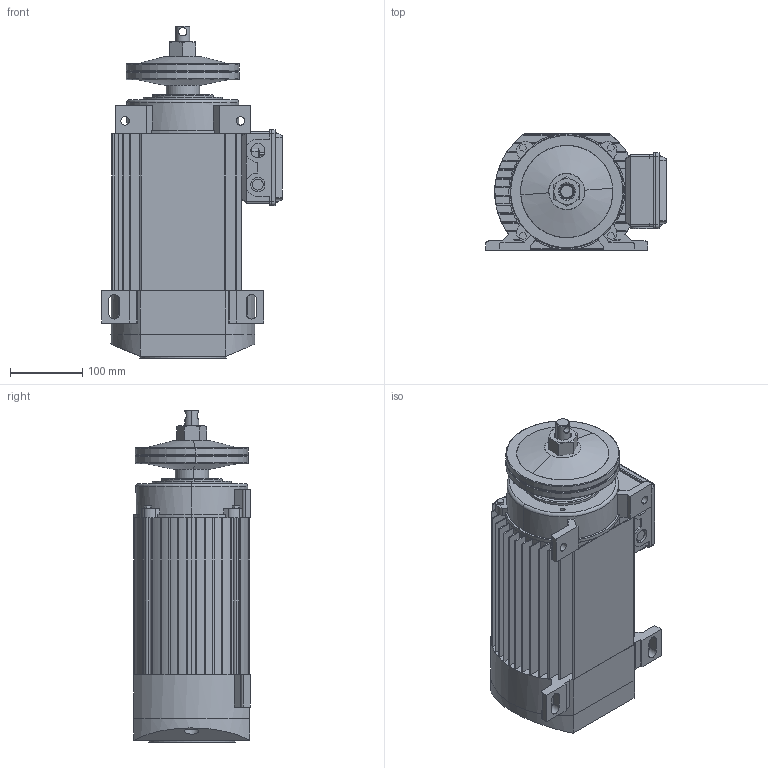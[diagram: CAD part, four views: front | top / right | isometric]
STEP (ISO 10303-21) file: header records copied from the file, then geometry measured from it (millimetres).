
FILE_DESCRIPTION (( 'STEP AP214' ), '1' );
FILE_NAME ('KSD_81A2.STEP', '2012-10-30T09:02:03', ( ' ' ), ( '' ), 'SwSTEP 2.0', 'SolidWorks 2012', '' );
FILE_SCHEMA (( 'AUTOMOTIVE_DESIGN' ));
Length unit declared in the file: millimetre
Products named in the file (10): Klemmenbrett_MS100; Zuganker_M6; Hex Nut GradeC_DIN_Hexagon Nut ISO 4034 - M24 - N; Klemmenscheibe_D160; Klemmenkastenunterteil_MS100; Klemmenkastendeckel_MS100; B_Lagerschild_81A2; A_Lagerschild_81A2; KSD_81A2_Stator; KSD_81A2
Assembly tree (12 placements, depth 2):
  KSD_81A2
    KSD_81A2_Stator
    A_Lagerschild_81A2
    B_Lagerschild_81A2
    Klemmenkastendeckel_MS100
    Klemmenkastenunterteil_MS100
    Klemmenscheibe_D160
    Hex Nut GradeC_DIN_Hexagon Nut ISO 4034 - M24 - N
    Zuganker_M6  x4
    Klemmenbrett_MS100
Bounding box: 250.5 x 161.5 x 460.5 mm (x, y, z)
Volume: 4808972.9 mm3; surface area: 965351 mm2
Topology: 14 solids, 14 shells, 1515 faces, 4009 edges, 2636 vertices
Faces by surface type: plane 922, cylinder 375, bspline 140, cone 60, torus 18
Entity records: 53983 total; most frequent: CARTESIAN_POINT 17026, ORIENTED_EDGE 7838, DIRECTION 7060, EDGE_CURVE 3919, LINE 2738, VECTOR 2738, VERTEX_POINT 2588, AXIS2_PLACEMENT_3D 2161
